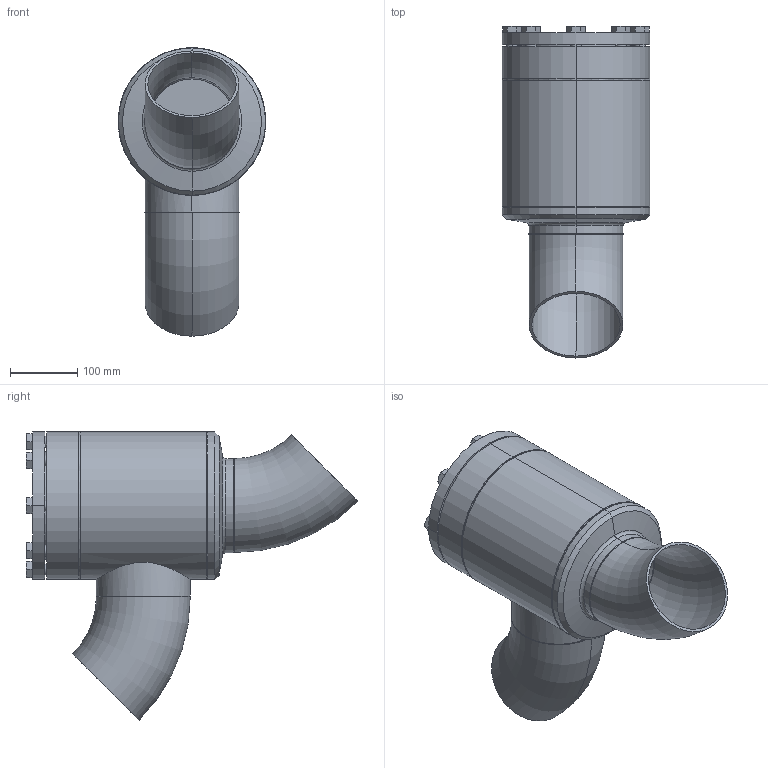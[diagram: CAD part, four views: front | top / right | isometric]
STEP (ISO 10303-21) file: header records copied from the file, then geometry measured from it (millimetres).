
FILE_DESCRIPTION (( 'STEP AP214' ), '1' );
FILE_NAME ('SS52300D20-DN125_R1_PS40.STEP', '2006-05-02T05:44:47', ( 'Herr Grams' ), ( 'AWP GmbH' ), 'SwSTEP 2.0', 'SolidWorks 2002296', '' );
FILE_SCHEMA (( 'AUTOMOTIVE_DESIGN' ));
Length unit declared in the file: millimetre
Products named in the file (14): SS52300D20-DN125_R1_PS40; Gehäuse-kpl16300-DN125_R1_Standard; Kopfstück16300-DN125_Standard; Gehäuse16300-DN125_Standard; Boden16300-DN125_Standard; Rohrstutzen-A16300-DN125_R1_Standard; Rohrbogen 45°_Rohrbogen-DN125-45°; bead-DN125-4_Standard; bead-DN125-3_Standard; bead-DN125-2_Standard; bead-DN125-1_Standard; SS52300E20_Deck+Schr-DN125_Standard; Deckel52300E20-DN125_Standard; Sechskantschraube-DIN933_M16x 45
Assembly tree (21 placements, depth 3):
  SS52300D20-DN125_R1_PS40
    Gehäuse-kpl16300-DN125_R1_Standard
      Rohrbogen 45°_Rohrbogen-DN125-45°  x2
      bead-DN125-4_Standard
      Kopfstück16300-DN125_Standard
      bead-DN125-3_Standard
      Gehäuse16300-DN125_Standard
      bead-DN125-2_Standard
      Rohrstutzen-A16300-DN125_R1_Standard
      Boden16300-DN125_Standard
      bead-DN125-1_Standard
    SS52300E20_Deck+Schr-DN125_Standard
      Sechskantschraube-DIN933_M16x 45  x8
      Deckel52300E20-DN125_Standard
Bounding box: 219.55 x 493.74 x 429.02 mm (x, y, z)
Volume: 4573284.3 mm3; surface area: 951616.7 mm2
Topology: 19 solids, 19 shells, 305 faces, 650 edges, 392 vertices
Faces by surface type: cone 120, plane 98, cylinder 61, bspline 16, torus 10
Entity records: 6672 total; most frequent: CARTESIAN_POINT 3182, DIRECTION 578, ORIENTED_EDGE 548, EDGE_CURVE 274, AXIS2_PLACEMENT_3D 256, VERTEX_POINT 174, EDGE_LOOP 162, ADVANCED_FACE 124
